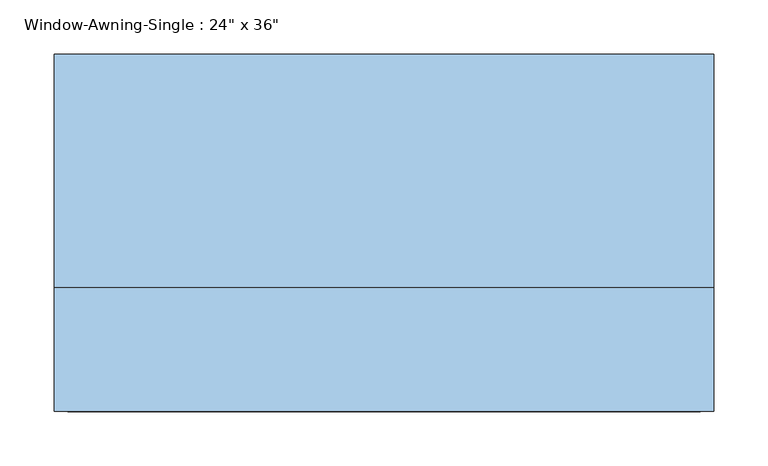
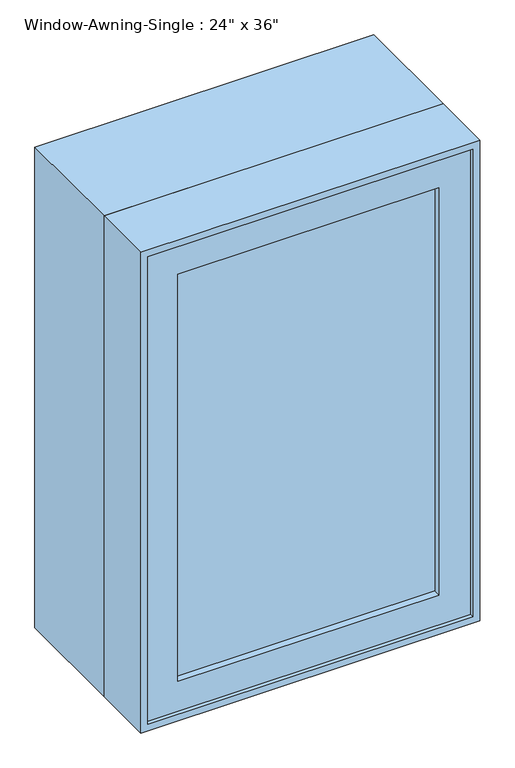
"""IFC4 building model written with IfcOpenShell, lengths in millimetres: window geometry."""

from ifc_helpers import new_model, si_unit, frame, origin, place, context, project, spatial, polyline, outline, extrude, faceted_brep, source, transform, mapped, element, save


def window_8e02f281(model_context):
    return source(origin(), model_context, "Body", "SolidModel", [
        faceted_brep([(292.1, -123.825, 927.1), (-292.1, -123.825, 927.1), (-292.1, -174.625, 927.1), (292.1, -174.625, 927.1), (273.05, -60.325, 946.15), (-273.05, -60.325, 946.15), (-273.05, -123.825, 946.15), (273.05, -123.825, 946.15), (304.8, -174.625, 914.4), (-304.8, -174.625, 914.4), (-304.8, -60.325, 914.4), (304.8, -60.325, 914.4), (-292.1, -123.825, 1816.1), (-292.1, -174.625, 1816.1), (-273.05, -60.325, 1797.05), (-273.05, -123.825, 1797.05), (-304.8, -174.625, 1828.8), (-304.8, -60.325, 1828.8), (292.1, -123.825, 1816.1), (292.1, -174.625, 1816.1), (273.05, -60.325, 1797.05), (273.05, -123.825, 1797.05), (304.8, -174.625, 1828.8), (304.8, -60.325, 1828.8)], [[[0, 1, 2, 3]], [[4, 5, 6, 7]], [[8, 9, 10, 11]], [[1, 12, 13, 2]], [[5, 14, 15, 6]], [[9, 16, 17, 10]], [[12, 18, 19, 13]], [[14, 20, 21, 15]], [[16, 22, 23, 17]], [[9, 8, 22, 16], [3, 2, 13, 19]], [[18, 0, 3, 19]], [[1, 0, 18, 12], [7, 6, 15, 21]], [[20, 4, 7, 21]], [[11, 10, 17, 23], [5, 4, 20, 14]], [[22, 8, 11, 23]]]),
        extrude(outline(polyline([(234.95, -155.575), (-234.95, -155.575), (-234.95, -149.225), (234.95, -149.225), (234.95, -155.575)])), frame((0.0, 0.0, 984.25), z_axis=(0.0, 0.0, 1.0), x_axis=(1.0, 0.0, 0.0)), (0.0, 0.0, 1.0), 774.7),
        extrude(outline(polyline([(234.95, -142.875), (-234.95, -142.875), (-234.95, -136.525), (234.95, -136.525), (234.95, -142.875)])), frame((0.0, 0.0, 984.25), z_axis=(0.0, 0.0, 1.0), x_axis=(1.0, 0.0, 0.0)), (0.0, 0.0, 1.0), 774.7),
        extrude(outline(polyline([(1816.1, -292.1), (927.1, -292.1), (927.1, 292.1), (1816.1, 292.1), (1816.1, -292.1)]), holes=[polyline([(984.25, -234.95), (1758.95, -234.95), (1758.95, 234.95), (984.25, 234.95), (984.25, -234.95)])]), frame((0.0, -168.275, 0.0), z_axis=(0.0, 1.0, 0.0), x_axis=(0.0, 0.0, 1.0)), (0.0, 0.0, 1.0), 44.45),
        extrude(outline(polyline([(1828.8, -304.8), (914.4, -304.8), (914.4, 304.8), (1828.8, 304.8), (1828.8, -304.8)]), holes=[polyline([(1809.75, -285.75), (1809.75, 285.75), (933.45, 285.75), (933.45, -285.75), (1809.75, -285.75)])]), frame((0.0, -60.325, 0.0), z_axis=(0.0, 1.0, 0.0), x_axis=(0.0, 0.0, 1.0)), (0.0, 0.0, 1.0), 215.9),
    ])


if __name__ == "__main__":
    model = new_model("IFC4")
    model_context = context("Model", 3, world=origin())
    ifc_project = project(units=[si_unit("LENGTHUNIT", "METRE", prefix="MILLI")], contexts=[model_context])
    site = spatial("IfcSite", under=ifc_project)
    building = spatial("IfcBuilding", under=site)
    placement = place(None, origin())
    window_shape = window_8e02f281(model_context)
    element("IfcWindow", 1, ObjectType="Window-Awning-Single : 24\" x 36\"", at=placement, inside=building, context=model_context, shape_type="MappedRepresentation", body=[
        mapped(window_shape, transform((0.0, 0.0, 0.0), x_axis=(1.0, 0.0, 0.0), y_axis=(0.0, 1.0, 0.0), z_axis=(0.0, 0.0, 1.0))),
    ])
    save(model, "model.ifc")
